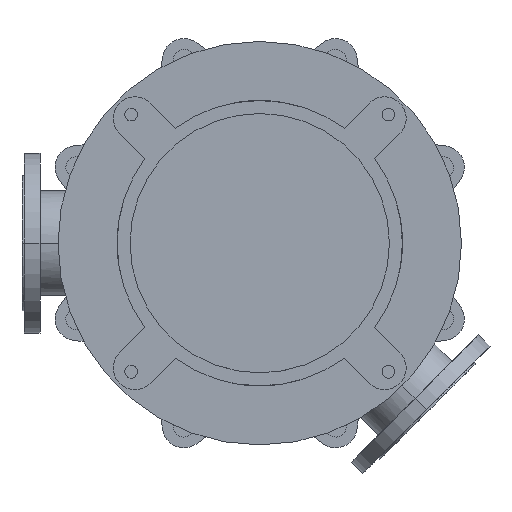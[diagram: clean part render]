
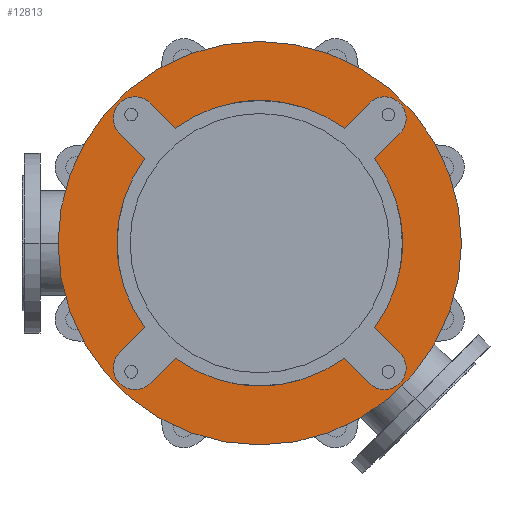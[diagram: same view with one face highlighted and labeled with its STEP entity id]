
A CAD part, front view. The second image highlights one B-rep face of the part: STEP entity #12813.
In plain terms, the highlighted planar face has unit normal (0, -1, 0).
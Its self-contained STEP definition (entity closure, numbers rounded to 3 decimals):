
#2514=CARTESIAN_POINT('',(0.,-25.,0.));
#2515=DIRECTION('',(0.,1.,0.));
#2516=DIRECTION('',(0.592,0.,-0.806));
#2517=AXIS2_PLACEMENT_3D('',#2514,#2515,#2516);
#2532=CARTESIAN_POINT('',(0.,-25.,0.));
#2533=DIRECTION('',(0.,1.,0.));
#2534=DIRECTION('',(0.806,0.,0.592));
#2535=AXIS2_PLACEMENT_3D('',#2532,#2533,#2534);
#2559=CARTESIAN_POINT('',(0.,-25.,0.));
#2560=DIRECTION('',(0.,1.,0.));
#2561=DIRECTION('',(-0.806,0.,-0.592));
#2562=AXIS2_PLACEMENT_3D('',#2559,#2560,#2561);
#2568=CARTESIAN_POINT('',(0.,-25.,0.));
#2569=DIRECTION('',(0.,1.,0.));
#2570=DIRECTION('',(-0.592,0.,0.806));
#2571=AXIS2_PLACEMENT_3D('',#2568,#2569,#2570);
#2746=CARTESIAN_POINT('',(0.,-25.,0.));
#2747=DIRECTION('',(0.,-1.,0.));
#2748=DIRECTION('',(-1.,0.,0.));
#2749=AXIS2_PLACEMENT_3D('',#2746,#2747,#2748);
#2751=CARTESIAN_POINT('',(0.,-25.,0.));
#2752=DIRECTION('',(0.,1.,0.));
#2753=DIRECTION('',(-1.,0.,0.));
#2754=AXIS2_PLACEMENT_3D('',#2751,#2752,#2753);
#2756=CARTESIAN_POINT('',(-173.241,-25.,173.241));
#2757=DIRECTION('',(0.,-1.,0.));
#2758=DIRECTION('',(0.707,0.,0.707));
#2759=AXIS2_PLACEMENT_3D('',#2756,#2757,#2758);
#2761=DIRECTION('',(0.707,0.,-0.707));
#2762=VECTOR('',#2761,49.286);
#2763=CARTESIAN_POINT('',(-194.454,-25.,152.028));
#2764=LINE('',#2763,#2762);
#2765=DIRECTION('',(-0.707,0.,-0.707));
#2766=VECTOR('',#2765,49.286);
#2767=CARTESIAN_POINT('',(-159.604,-25.,-117.178));
#2768=LINE('',#2767,#2766);
#2769=CARTESIAN_POINT('',(-173.241,-25.,-173.241));
#2770=DIRECTION('',(0.,-1.,0.));
#2771=DIRECTION('',(-0.707,0.,0.707));
#2772=AXIS2_PLACEMENT_3D('',#2769,#2770,#2771);
#2774=DIRECTION('',(0.707,0.,0.707));
#2775=VECTOR('',#2774,49.286);
#2776=CARTESIAN_POINT('',(-152.028,-25.,-194.454));
#2777=LINE('',#2776,#2775);
#2778=DIRECTION('',(0.707,0.,-0.707));
#2779=VECTOR('',#2778,49.286);
#2780=CARTESIAN_POINT('',(117.178,-25.,-159.604));
#2781=LINE('',#2780,#2779);
#2782=CARTESIAN_POINT('',(173.241,-25.,-173.241));
#2783=DIRECTION('',(0.,-1.,0.));
#2784=DIRECTION('',(-0.707,0.,-0.707));
#2785=AXIS2_PLACEMENT_3D('',#2782,#2783,#2784);
#2787=DIRECTION('',(-0.707,0.,0.707));
#2788=VECTOR('',#2787,49.286);
#2789=CARTESIAN_POINT('',(194.454,-25.,-152.028));
#2790=LINE('',#2789,#2788);
#2791=DIRECTION('',(0.707,0.,0.707));
#2792=VECTOR('',#2791,49.286);
#2793=CARTESIAN_POINT('',(159.604,-25.,117.178));
#2794=LINE('',#2793,#2792);
#2795=CARTESIAN_POINT('',(173.241,-25.,173.241));
#2796=DIRECTION('',(0.,-1.,0.));
#2797=DIRECTION('',(0.707,0.,-0.707));
#2798=AXIS2_PLACEMENT_3D('',#2795,#2796,#2797);
#2800=DIRECTION('',(-0.707,0.,-0.707));
#2801=VECTOR('',#2800,49.286);
#2802=CARTESIAN_POINT('',(152.028,-25.,194.454));
#2803=LINE('',#2802,#2801);
#2804=DIRECTION('',(-0.707,0.,0.707));
#2805=VECTOR('',#2804,49.286);
#2806=CARTESIAN_POINT('',(-117.178,-25.,159.604));
#2807=LINE('',#2806,#2805);
#8326=CARTESIAN_POINT('',(-280.,-25.,0.));
#8327=CARTESIAN_POINT('',(280.,-25.,0.));
#8328=VERTEX_POINT('',#8326);
#8329=VERTEX_POINT('',#8327);
#8350=CARTESIAN_POINT('',(-194.454,-25.,-152.028));
#8351=CARTESIAN_POINT('',(-152.028,-25.,-194.454));
#8352=VERTEX_POINT('',#8350);
#8353=VERTEX_POINT('',#8351);
#8354=CARTESIAN_POINT('',(-117.178,-25.,-159.604));
#8355=VERTEX_POINT('',#8354);
#8356=CARTESIAN_POINT('',(-159.604,-25.,-117.178));
#8357=VERTEX_POINT('',#8356);
#8366=CARTESIAN_POINT('',(152.028,-25.,-194.454));
#8367=CARTESIAN_POINT('',(194.454,-25.,-152.028));
#8368=VERTEX_POINT('',#8366);
#8369=VERTEX_POINT('',#8367);
#8370=CARTESIAN_POINT('',(159.604,-25.,-117.178));
#8371=VERTEX_POINT('',#8370);
#8372=CARTESIAN_POINT('',(117.178,-25.,-159.604));
#8373=VERTEX_POINT('',#8372);
#8382=CARTESIAN_POINT('',(194.454,-25.,152.028));
#8383=CARTESIAN_POINT('',(152.028,-25.,194.454));
#8384=VERTEX_POINT('',#8382);
#8385=VERTEX_POINT('',#8383);
#8386=CARTESIAN_POINT('',(117.178,-25.,159.604));
#8387=VERTEX_POINT('',#8386);
#8388=CARTESIAN_POINT('',(159.604,-25.,117.178));
#8389=VERTEX_POINT('',#8388);
#8398=CARTESIAN_POINT('',(-152.028,-25.,194.454));
#8399=CARTESIAN_POINT('',(-194.454,-25.,152.028));
#8400=VERTEX_POINT('',#8398);
#8401=VERTEX_POINT('',#8399);
#8402=CARTESIAN_POINT('',(-159.604,-25.,117.178));
#8403=VERTEX_POINT('',#8402);
#8404=CARTESIAN_POINT('',(-117.178,-25.,159.604));
#8405=VERTEX_POINT('',#8404);
#12773=CARTESIAN_POINT('',(0.,-25.,0.));
#12774=DIRECTION('',(0.,-1.,0.));
#12775=DIRECTION('',(-1.,0.,0.));
#12776=AXIS2_PLACEMENT_3D('',#12773,#12774,#12775);
#12777=PLANE('',#12776);
#12779=ORIENTED_EDGE('',*,*,#12778,.F.);
#12781=ORIENTED_EDGE('',*,*,#12780,.T.);
#12782=EDGE_LOOP('',(#12779,#12781));
#12783=FACE_OUTER_BOUND('',#12782,.F.);
#12785=ORIENTED_EDGE('',*,*,#12784,.T.);
#12787=ORIENTED_EDGE('',*,*,#12786,.T.);
#12788=ORIENTED_EDGE('',*,*,#12726,.F.);
#12790=ORIENTED_EDGE('',*,*,#12789,.T.);
#12792=ORIENTED_EDGE('',*,*,#12791,.T.);
#12794=ORIENTED_EDGE('',*,*,#12793,.T.);
#12795=ORIENTED_EDGE('',*,*,#12679,.F.);
#12796=ORIENTED_EDGE('',*,*,#12763,.T.);
#12798=ORIENTED_EDGE('',*,*,#12797,.T.);
#12800=ORIENTED_EDGE('',*,*,#12799,.T.);
#12801=ORIENTED_EDGE('',*,*,#12700,.F.);
#12803=ORIENTED_EDGE('',*,*,#12802,.T.);
#12805=ORIENTED_EDGE('',*,*,#12804,.T.);
#12807=ORIENTED_EDGE('',*,*,#12806,.T.);
#12808=ORIENTED_EDGE('',*,*,#12744,.F.);
#12810=ORIENTED_EDGE('',*,*,#12809,.T.);
#12811=EDGE_LOOP('',(#12785,#12787,#12788,#12790,#12792,#12794,#12795,#12796,
#12798,#12800,#12801,#12803,#12805,#12807,#12808,#12810));
#12812=FACE_BOUND('',#12811,.F.);
#12813=ADVANCED_FACE('',(#12783,#12812),#12777,.T.);
#2518=CIRCLE('',#2517,198.);
#2536=CIRCLE('',#2535,198.);
#2563=CIRCLE('',#2562,198.);
#2572=CIRCLE('',#2571,198.);
#2750=CIRCLE('',#2749,280.);
#2755=CIRCLE('',#2754,280.);
#2760=CIRCLE('',#2759,30.);
#2773=CIRCLE('',#2772,30.);
#2786=CIRCLE('',#2785,30.);
#2799=CIRCLE('',#2798,30.);
#12679=EDGE_CURVE('',#8373,#8355,#2518,.T.);
#12700=EDGE_CURVE('',#8389,#8371,#2536,.T.);
#12726=EDGE_CURVE('',#8357,#8403,#2563,.T.);
#12744=EDGE_CURVE('',#8405,#8387,#2572,.T.);
#12763=EDGE_CURVE('',#8373,#8368,#2781,.T.);
#12778=EDGE_CURVE('',#8328,#8329,#2750,.T.);
#12780=EDGE_CURVE('',#8328,#8329,#2755,.T.);
#12784=EDGE_CURVE('',#8400,#8401,#2760,.T.);
#12786=EDGE_CURVE('',#8401,#8403,#2764,.T.);
#12789=EDGE_CURVE('',#8357,#8352,#2768,.T.);
#12791=EDGE_CURVE('',#8352,#8353,#2773,.T.);
#12793=EDGE_CURVE('',#8353,#8355,#2777,.T.);
#12797=EDGE_CURVE('',#8368,#8369,#2786,.T.);
#12799=EDGE_CURVE('',#8369,#8371,#2790,.T.);
#12802=EDGE_CURVE('',#8389,#8384,#2794,.T.);
#12804=EDGE_CURVE('',#8384,#8385,#2799,.T.);
#12806=EDGE_CURVE('',#8385,#8387,#2803,.T.);
#12809=EDGE_CURVE('',#8405,#8400,#2807,.T.);
